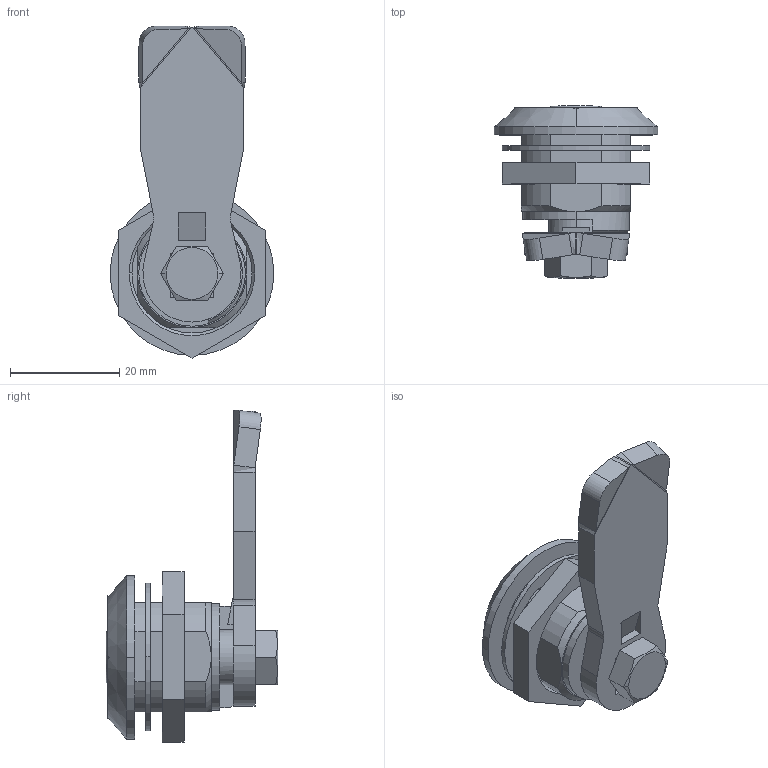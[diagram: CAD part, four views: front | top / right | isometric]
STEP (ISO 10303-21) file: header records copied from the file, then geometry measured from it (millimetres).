
FILE_DESCRIPTION (( 'STEP AP214' ), '1' );
FILE_NAME ('ZZR18.010.STEP', '2010-02-19T15:09:55', ( '£ukaszC' ), ( '' ), 'SwSTEP 2.0', 'SolidWorks 2008', '' );
FILE_SCHEMA (( 'AUTOMOTIVE_DESIGN' ));
Length unit declared in the file: millimetre
Products named in the file (12): Jêzyk #4_Domyœlna; Sprê¿yna nierdzewka_Domyœlna; Œruba M6x10_Domyœlna; oring FI 12x2_Domyœlna; Nakrêtka _Domyœlna; Podk³ladka IP; Sworzeñ 316_Domyœlna; Korpus 316_Domyœlna; ZZR18.010; Zaœlepka 316.005; Blacha maskuj¹ca 316; Trzpieñ sprê¿yny
Assembly tree (11 placements, depth 2):
  ZZR18.010
    Sworzeñ 316_Domyœlna
    Œruba M6x10_Domyœlna
    Sprê¿yna nierdzewka_Domyœlna
    Nakrêtka _Domyœlna
    Jêzyk #4_Domyœlna
    Zaœlepka 316.005
    Trzpieñ sprê¿yny
    Korpus 316_Domyœlna
    oring FI 12x2_Domyœlna
    Blacha maskuj¹ca 316
    Podk³ladka IP
Bounding box: 30 x 31.5 x 60.82 mm (x, y, z)
Volume: 12677.1 mm3; surface area: 12330 mm2
Topology: 11 solids, 11 shells, 245 faces, 601 edges, 382 vertices
Faces by surface type: plane 111, cylinder 83, cone 24, torus 21, bspline 6
Entity records: 8577 total; most frequent: CARTESIAN_POINT 2283, DIRECTION 1289, ORIENTED_EDGE 1202, EDGE_CURVE 601, AXIS2_PLACEMENT_3D 494, VERTEX_POINT 382, VECTOR 301, LINE 301
